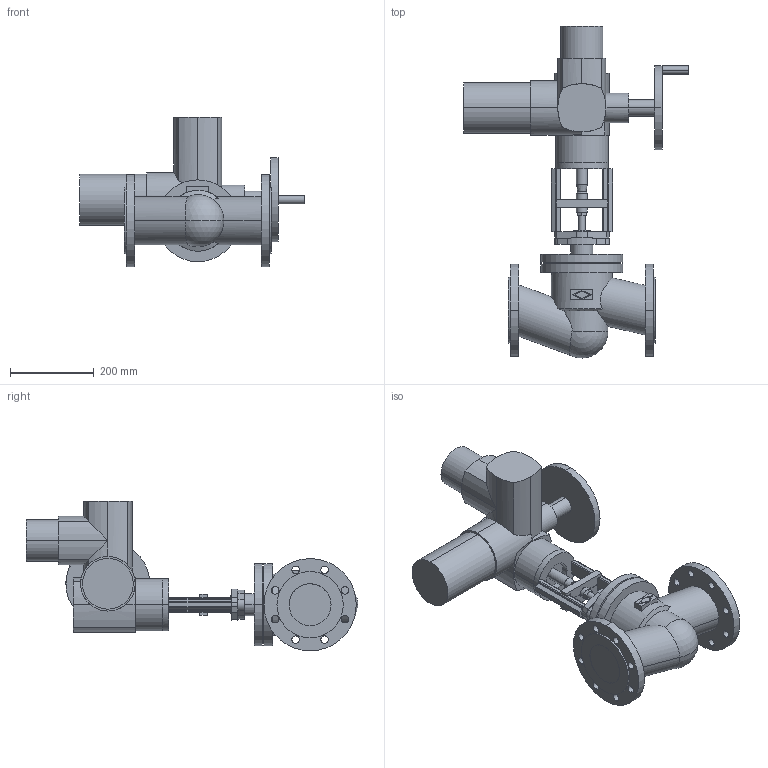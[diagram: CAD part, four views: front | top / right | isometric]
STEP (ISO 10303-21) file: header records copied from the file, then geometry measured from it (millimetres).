
FILE_DESCRIPTION(('OneSpaceDesigner STEP Export'),'2;1');
FILE_NAME('c000003092.stp','2007-01-09T10:47:24',(''),(''),'OneSpace Designer STEP processor for AP214 (Solid Model)','OneSpace Designer 14.00B 27-May-2006 (C) CoCreate Software GmbH','');
FILE_SCHEMA(('AUTOMOTIVE_DESIGN { 1 0 10303 214 1 1 1 1 }'));
Length unit declared in the file: millimetre
Products named in the file (3): 1; 2; 3
Bounding box: 536 x 790.97 x 357 mm (x, y, z)
Volume: 18249351.9 mm3; surface area: 968098.3 mm2
Topology: 3 solids, 3 shells, 273 faces, 694 edges, 442 vertices
Faces by surface type: cylinder 148, plane 117, cone 6, sphere 2
Entity records: 8019 total; most frequent: CARTESIAN_POINT 1855, ORIENTED_EDGE 1384, DIRECTION 1123, EDGE_CURVE 692, VERTEX_POINT 442, AXIS2_PLACEMENT_3D 383, VECTOR 357, LINE 357
